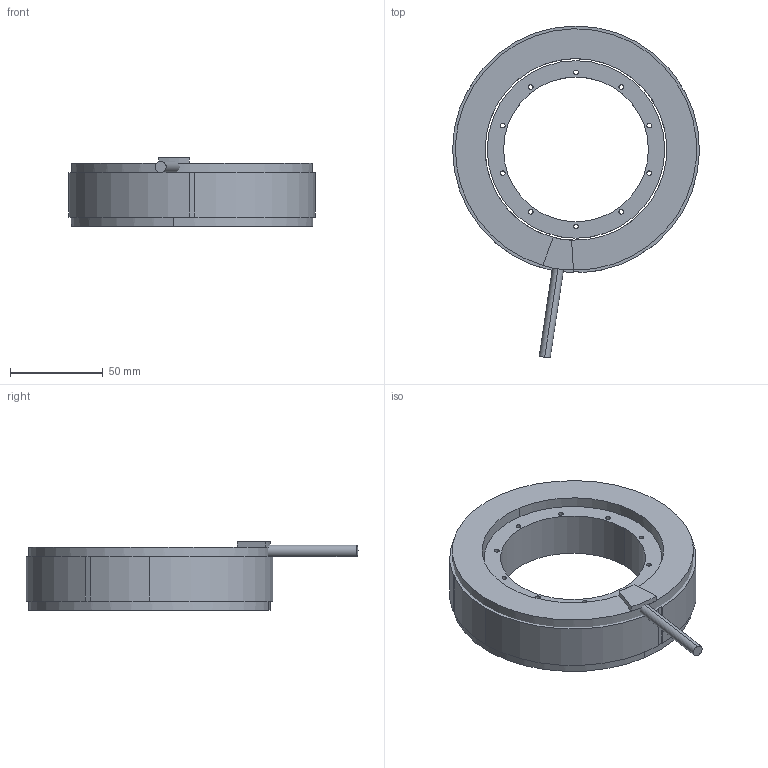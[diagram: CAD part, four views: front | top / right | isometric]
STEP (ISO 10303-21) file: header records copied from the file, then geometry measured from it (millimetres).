
FILE_DESCRIPTION (( 'STEP AP203' ), '1' );
FILE_NAME ('TMXSL133-34 KIT 3D.STEP', '2021-06-21T05:46:51', ( '' ), ( '' ), 'SwSTEP 2.0', 'SolidWorks 2021', '' );
FILE_SCHEMA (( 'CONFIG_CONTROL_DESIGN' ));
Length unit declared in the file: millimetre
Products named in the file (1): TMXSL133-34 KIT 3D
Bounding box: 133 x 178.9 x 37 mm (x, y, z)
Volume: 302767.4 mm3; surface area: 81182.7 mm2
Topology: 4 solids, 4 shells, 151 faces, 424 edges, 280 vertices
Faces by surface type: cylinder 79, plane 72
Entity records: 5047 total; most frequent: DIRECTION 890, CARTESIAN_POINT 856, ORIENTED_EDGE 848, EDGE_CURVE 424, AXIS2_PLACEMENT_3D 314, VERTEX_POINT 280, LINE 262, VECTOR 262
